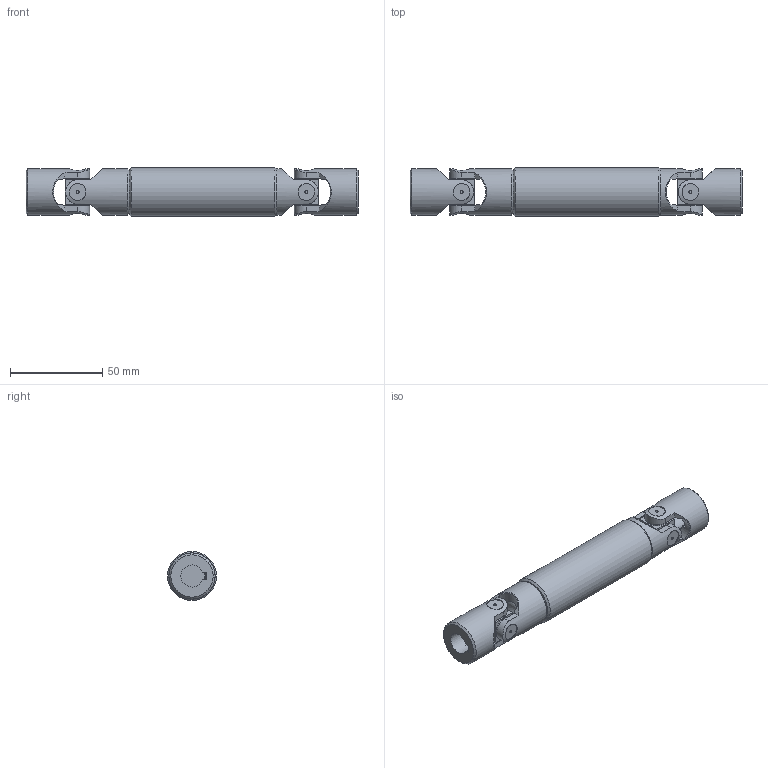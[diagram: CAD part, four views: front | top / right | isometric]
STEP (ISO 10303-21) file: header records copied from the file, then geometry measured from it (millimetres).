
FILE_DESCRIPTION(/* description */ (''),/* implementation_level */ '2;1');
FILE_NAME(/* name */ '\\SRV2016\Societa\Stefano\Disegni 3D\00Catalogo 3D\03Trasmissioni standard GA\!04GA15\!04GA15_SG0A1215.stp',/* time_stamp */ '2022-02-15T10:44:41+01:00',/* author */ ('acquisti'),/* organization */ (''),/* preprocessor_version */ 'ST-DEVELOPER v15.6',/* originating_system */ 'Autodesk Inventor 2015',/* authorisation */ '');
FILE_SCHEMA (('AUTOMOTIVE_DESIGN { 1 0 10303 214 3 1 1 }'));
Length unit declared in the file: millimetre
Products named in the file (5): !04GA15 LCI; !04GA15 LAI; 04G MOC; 04G SFE; !04GA15_SG0A1215
Assembly tree (6 placements, depth 2):
  !04GA15_SG0A1215
    !04GA15 LCI
    !04GA15 LAI
    04G MOC  x2
    04G SFE  x2
Bounding box: 180 x 26.5 x 26.5 mm (x, y, z)
Volume: 71596.6 mm3; surface area: 31382.9 mm2
Topology: 6 solids, 6 shells, 228 faces, 559 edges, 367 vertices
Faces by surface type: plane 106, cylinder 93, cone 25, torus 4
Full cylindrical faces by diameter (mm): 1.5 x8, 12 x1, 12.5 x8, 13 x2, 21 x1, 25 x4, 26.5 x1
Entity records: 5789 total; most frequent: CARTESIAN_POINT 1679, DIRECTION 823, ORIENTED_EDGE 820, EDGE_CURVE 410, AXIS2_PLACEMENT_3D 335, VERTEX_POINT 286, EDGE_LOOP 224, FACE_OUTER_BOUND 176
